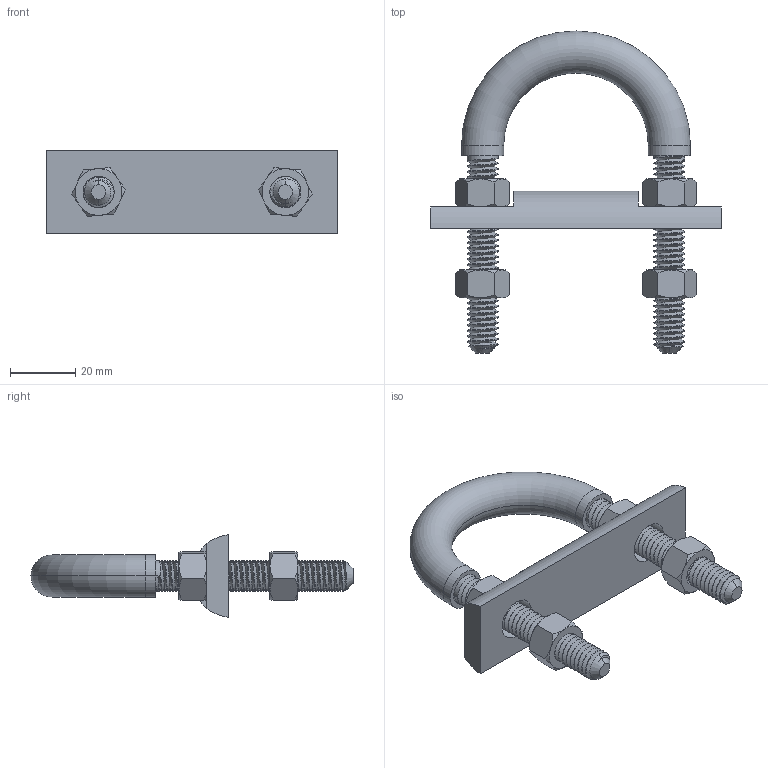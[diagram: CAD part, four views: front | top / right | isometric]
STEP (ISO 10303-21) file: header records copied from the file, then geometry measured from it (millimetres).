
FILE_DESCRIPTION (( 'STEP AP214' ), '1' );
FILE_NAME ('NUB1462.STEP', '2022-04-04T15:56:18', ( '' ), ( '' ), 'SwSTEP 2.0', 'SolidWorks 2021', '' );
FILE_SCHEMA (( 'AUTOMOTIVE_DESIGN' ));
Length unit declared in the file: inch
Products named in the file (4): ROD0636_IR06-1_XL [ROD0636]; NUB1462; FAS0045; UBT0989_UBT6-1-0.375-16_XL [NUB1462]
Assembly tree (6 placements, depth 2):
  NUB1462
    FAS0045  x4
    UBT0989_UBT6-1-0.375-16_XL [NUB1462]
    ROD0636_IR06-1_XL [ROD0636]
Bounding box: 88.9 x 98.52 x 25.27 mm (x, y, z)
Volume: 37187 mm3; surface area: 25094.2 mm2
Topology: 7 solids, 7 shells, 294 faces, 752 edges, 472 vertices
Faces by surface type: cylinder 169, cone 70, plane 45, torus 6, bspline 4
Entity records: 16241 total; most frequent: CARTESIAN_POINT 11397, ORIENTED_EDGE 1144, DIRECTION 760, EDGE_CURVE 572, VERTEX_POINT 370, AXIS2_PLACEMENT_3D 285, EDGE_LOOP 218, FACE_OUTER_BOUND 210
